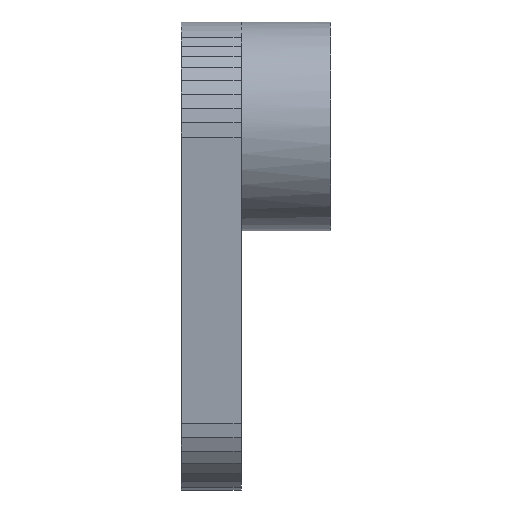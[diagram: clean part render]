
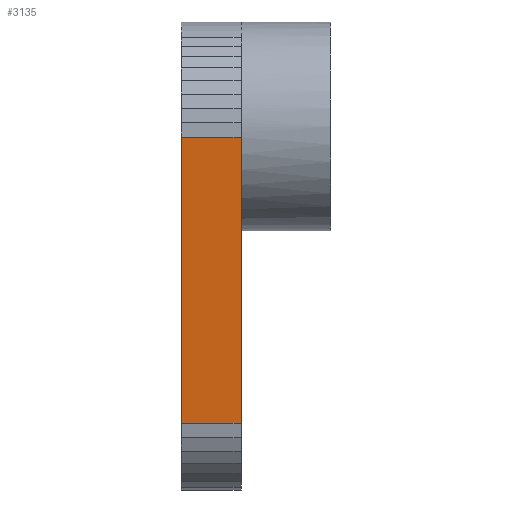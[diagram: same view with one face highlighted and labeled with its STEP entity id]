
A CAD part, front view. The second image highlights one B-rep face of the part: STEP entity #3135.
In plain terms, the highlighted planar face has unit normal (0, -0.995, -0.103).
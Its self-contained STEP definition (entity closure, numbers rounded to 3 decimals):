
#126 = PLANE('',#127);
#127 = AXIS2_PLACEMENT_3D('',#128,#129,#130);
#128 = CARTESIAN_POINT('',(-17.5,23.2,-28.34));
#129 = DIRECTION('',(1.,0.,0.));
#130 = DIRECTION('',(-0.,0.,1.));
#185 = PLANE('',#186);
#186 = AXIS2_PLACEMENT_3D('',#187,#188,#189);
#187 = CARTESIAN_POINT('',(-15.5,23.2,-28.34));
#188 = DIRECTION('',(1.,0.,0.));
#189 = DIRECTION('',(-0.,0.,1.));
#889 = VERTEX_POINT('',#890);
#890 = CARTESIAN_POINT('',(-17.5,19.719,-24.561));
#904 = PLANE('',#905);
#905 = AXIS2_PLACEMENT_3D('',#906,#907,#908);
#906 = CARTESIAN_POINT('',(-17.5,19.702,-24.073));
#907 = DIRECTION('',(-0.,0.999,0.034));
#908 = DIRECTION('',(0.,0.034,-0.999));
#916 = EDGE_CURVE('',#889,#917,#919,.T.);
#917 = VERTEX_POINT('',#918);
#918 = CARTESIAN_POINT('',(-17.5,20.713,-34.158));
#919 = SURFACE_CURVE('',#920,(#924,#931),.PCURVE_S1.);
#920 = LINE('',#921,#922);
#921 = CARTESIAN_POINT('',(-17.5,19.719,-24.561));
#922 = VECTOR('',#923,1.);
#923 = DIRECTION('',(0.,0.103,-0.995));
#924 = PCURVE('',#126,#925);
#925 = DEFINITIONAL_REPRESENTATION('',(#926),#930);
#926 = LINE('',#927,#928);
#927 = CARTESIAN_POINT('',(3.779,3.481));
#928 = VECTOR('',#929,1.);
#929 = DIRECTION('',(-0.995,-0.103));
#930 = ( GEOMETRIC_REPRESENTATION_CONTEXT(2) 
PARAMETRIC_REPRESENTATION_CONTEXT() REPRESENTATION_CONTEXT('2D SPACE',''
  ) );
#931 = PCURVE('',#932,#937);
#932 = PLANE('',#933);
#933 = AXIS2_PLACEMENT_3D('',#934,#935,#936);
#934 = CARTESIAN_POINT('',(-17.5,19.719,-24.561));
#935 = DIRECTION('',(-0.,0.995,0.103));
#936 = DIRECTION('',(0.,0.103,-0.995));
#937 = DEFINITIONAL_REPRESENTATION('',(#938),#942);
#938 = LINE('',#939,#940);
#939 = CARTESIAN_POINT('',(0.,0.));
#940 = VECTOR('',#941,1.);
#941 = DIRECTION('',(1.,0.));
#942 = ( GEOMETRIC_REPRESENTATION_CONTEXT(2) 
PARAMETRIC_REPRESENTATION_CONTEXT() REPRESENTATION_CONTEXT('2D SPACE',''
  ) );
#960 = PLANE('',#961);
#961 = AXIS2_PLACEMENT_3D('',#962,#963,#964);
#962 = CARTESIAN_POINT('',(-17.5,20.713,-34.158));
#963 = DIRECTION('',(-0.,0.98,0.2));
#964 = DIRECTION('',(0.,0.2,-0.98));
#1529 = VERTEX_POINT('',#1530);
#1530 = CARTESIAN_POINT('',(-15.5,19.719,-24.561));
#1552 = EDGE_CURVE('',#1529,#1553,#1555,.T.);
#1553 = VERTEX_POINT('',#1554);
#1554 = CARTESIAN_POINT('',(-15.5,20.713,-34.158));
#1555 = SURFACE_CURVE('',#1556,(#1560,#1567),.PCURVE_S1.);
#1556 = LINE('',#1557,#1558);
#1557 = CARTESIAN_POINT('',(-15.5,19.719,-24.561));
#1558 = VECTOR('',#1559,1.);
#1559 = DIRECTION('',(0.,0.103,-0.995));
#1560 = PCURVE('',#185,#1561);
#1561 = DEFINITIONAL_REPRESENTATION('',(#1562),#1566);
#1562 = LINE('',#1563,#1564);
#1563 = CARTESIAN_POINT('',(3.779,3.481));
#1564 = VECTOR('',#1565,1.);
#1565 = DIRECTION('',(-0.995,-0.103));
#1566 = ( GEOMETRIC_REPRESENTATION_CONTEXT(2) 
PARAMETRIC_REPRESENTATION_CONTEXT() REPRESENTATION_CONTEXT('2D SPACE',''
  ) );
#1567 = PCURVE('',#932,#1568);
#1568 = DEFINITIONAL_REPRESENTATION('',(#1569),#1573);
#1569 = LINE('',#1570,#1571);
#1570 = CARTESIAN_POINT('',(0.,-2.));
#1571 = VECTOR('',#1572,1.);
#1572 = DIRECTION('',(1.,0.));
#1573 = ( GEOMETRIC_REPRESENTATION_CONTEXT(2) 
PARAMETRIC_REPRESENTATION_CONTEXT() REPRESENTATION_CONTEXT('2D SPACE',''
  ) );
#3058 = EDGE_CURVE('',#917,#1553,#3059,.T.);
#3059 = SURFACE_CURVE('',#3060,(#3064,#3071),.PCURVE_S1.);
#3060 = LINE('',#3061,#3062);
#3061 = CARTESIAN_POINT('',(-17.5,20.713,-34.158));
#3062 = VECTOR('',#3063,1.);
#3063 = DIRECTION('',(1.,0.,0.));
#3064 = PCURVE('',#960,#3065);
#3065 = DEFINITIONAL_REPRESENTATION('',(#3066),#3070);
#3066 = LINE('',#3067,#3068);
#3067 = CARTESIAN_POINT('',(0.,0.));
#3068 = VECTOR('',#3069,1.);
#3069 = DIRECTION('',(0.,-1.));
#3070 = ( GEOMETRIC_REPRESENTATION_CONTEXT(2) 
PARAMETRIC_REPRESENTATION_CONTEXT() REPRESENTATION_CONTEXT('2D SPACE',''
  ) );
#3071 = PCURVE('',#932,#3072);
#3072 = DEFINITIONAL_REPRESENTATION('',(#3073),#3077);
#3073 = LINE('',#3074,#3075);
#3074 = CARTESIAN_POINT('',(9.648,0.));
#3075 = VECTOR('',#3076,1.);
#3076 = DIRECTION('',(0.,-1.));
#3077 = ( GEOMETRIC_REPRESENTATION_CONTEXT(2) 
PARAMETRIC_REPRESENTATION_CONTEXT() REPRESENTATION_CONTEXT('2D SPACE',''
  ) );
#3135 = ADVANCED_FACE('',(#3136),#932,.F.);
#3136 = FACE_BOUND('',#3137,.F.);
#3137 = EDGE_LOOP('',(#3138,#3159,#3160,#3161));
#3138 = ORIENTED_EDGE('',*,*,#3139,.T.);
#3139 = EDGE_CURVE('',#889,#1529,#3140,.T.);
#3140 = SURFACE_CURVE('',#3141,(#3145,#3152),.PCURVE_S1.);
#3141 = LINE('',#3142,#3143);
#3142 = CARTESIAN_POINT('',(-17.5,19.719,-24.561));
#3143 = VECTOR('',#3144,1.);
#3144 = DIRECTION('',(1.,0.,0.));
#3145 = PCURVE('',#932,#3146);
#3146 = DEFINITIONAL_REPRESENTATION('',(#3147),#3151);
#3147 = LINE('',#3148,#3149);
#3148 = CARTESIAN_POINT('',(0.,0.));
#3149 = VECTOR('',#3150,1.);
#3150 = DIRECTION('',(0.,-1.));
#3151 = ( GEOMETRIC_REPRESENTATION_CONTEXT(2) 
PARAMETRIC_REPRESENTATION_CONTEXT() REPRESENTATION_CONTEXT('2D SPACE',''
  ) );
#3152 = PCURVE('',#904,#3153);
#3153 = DEFINITIONAL_REPRESENTATION('',(#3154),#3158);
#3154 = LINE('',#3155,#3156);
#3155 = CARTESIAN_POINT('',(0.488,0.));
#3156 = VECTOR('',#3157,1.);
#3157 = DIRECTION('',(0.,-1.));
#3158 = ( GEOMETRIC_REPRESENTATION_CONTEXT(2) 
PARAMETRIC_REPRESENTATION_CONTEXT() REPRESENTATION_CONTEXT('2D SPACE',''
  ) );
#3159 = ORIENTED_EDGE('',*,*,#1552,.T.);
#3160 = ORIENTED_EDGE('',*,*,#3058,.F.);
#3161 = ORIENTED_EDGE('',*,*,#916,.F.);
